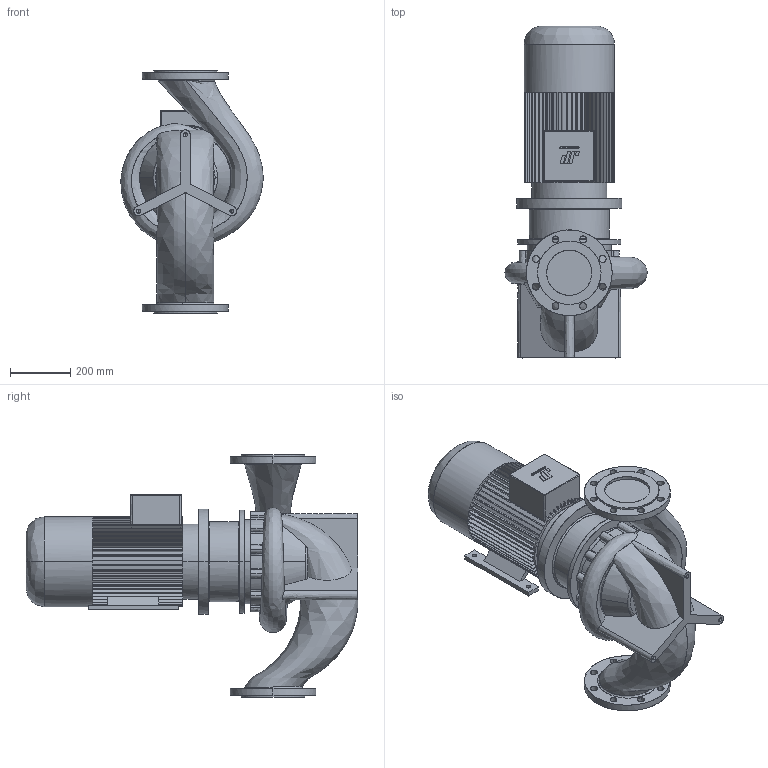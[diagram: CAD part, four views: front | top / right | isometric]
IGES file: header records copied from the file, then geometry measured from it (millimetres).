
Start section: CombiLine
Global section: file name: CLB_125A-250_IEC160L_ND10.igs; native system:  By UGS Corp.; preprocessor: XPlus GENERIC/IGES 3.0; author: Stageplaats; organization: Johnson Pump Water B.V.; date: 20070718.100332; units: millimetre
Bounding box: 473.04 x 1103.5 x 805 mm (x, y, z)
Surface area: 2690693.9 mm2 (no closed solid volume)
Topology: 0 solids, 0 shells, 618 faces, 3778 edges, 3772 vertices
Faces by surface type: bspline 618
